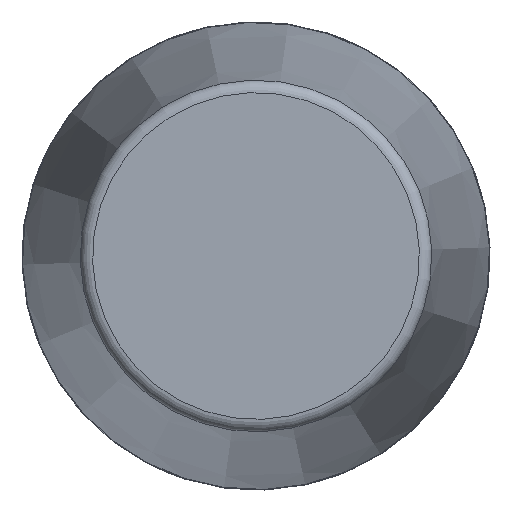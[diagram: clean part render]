
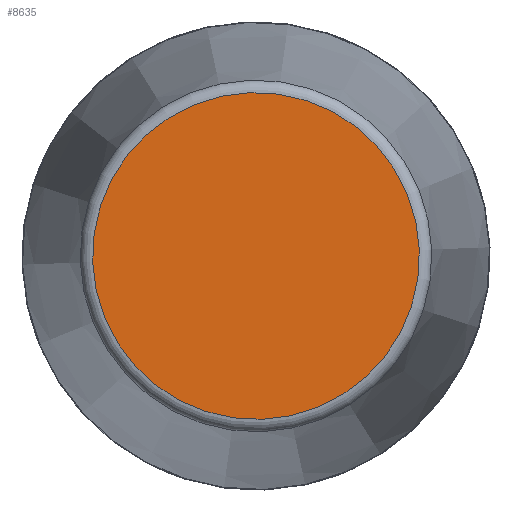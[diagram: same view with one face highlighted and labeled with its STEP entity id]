
A CAD part, front view. The second image highlights one B-rep face of the part: STEP entity #8635.
In plain terms, the highlighted planar face has unit normal (0, -1, 0) as drawn and (1, 0, 0) by its records, which use the part's own axes.
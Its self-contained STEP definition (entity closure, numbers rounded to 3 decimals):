
#2428=PLANE('',#9002);
#2978=FACE_OUTER_BOUND('',#3509,.T.);
#3509=EDGE_LOOP('',(#8152));
#3553=CIRCLE('',#8998,26.168);
#4400=VERTEX_POINT('',#16097);
#5651=EDGE_CURVE('',#4400,#4400,#3553,.T.);
#8152=ORIENTED_EDGE('',*,*,#5651,.F.);
#8635=ADVANCED_FACE('',(#2978),#2428,.T.);
#8998=AXIS2_PLACEMENT_3D('',#16098,#10335,#10336);
#9002=AXIS2_PLACEMENT_3D('',#16104,#10343,#10344);
#10335=DIRECTION('center_axis',(-1.,0.,0.));
#10336=DIRECTION('ref_axis',(0.,0.,
1.));
#10343=DIRECTION('center_axis',(1.,0.,0.));
#10344=DIRECTION('ref_axis',(0.,0.,-1.));
#16097=CARTESIAN_POINT('',(133.5,0.,-26.168));
#16098=CARTESIAN_POINT('Origin',(133.5,0.,0.));
#16104=CARTESIAN_POINT('Origin',(133.5,0.,0.));
